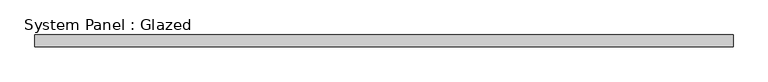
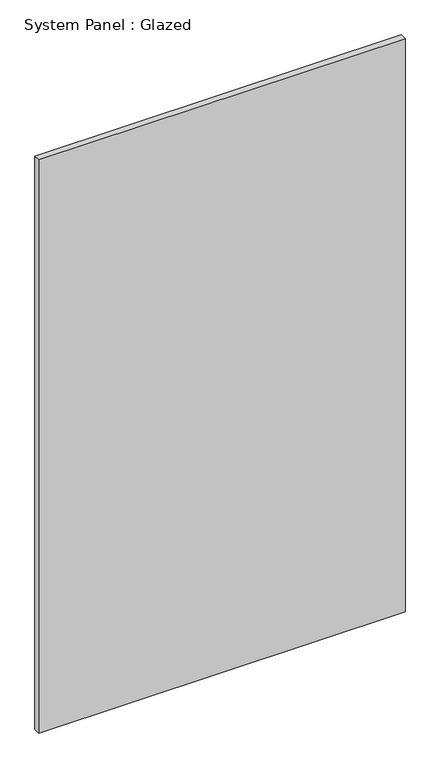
"""IFC4 building model written with IfcOpenShell, lengths in millimetres: plate geometry, System Panel : Glazed."""

import ifcopenshell
import ifcopenshell.guid

model = None  # the IFC model being written
_history = None  # IfcOwnerHistory: only IFC2X3 demands one
_inside = {}  # id of a spatial element -> (the spatial element, [elements in it])
_under = {}  # id of a project, library or spatial element -> (it, [spatial elements below it])
_declared = {}  # id of a project -> (the project, [libraries it declares])
_typed = {}  # id of a type object -> (the type object, [elements of that type])
_made_of = {}  # id of a material, layer set ... -> (it, [elements and type objects made of it])


def new_model(schema):
    """Start an empty IFC model of exactly this schema.

    Asked for "IFC4X3", IfcOpenShell would pick the latest addendum, in which some entities
    have other attributes; the version numbers below select the first issue.
    IFC2X3 requires an IfcOwnerHistory on every rooted entity: one is made here for all.
    """
    global model, _history
    if schema == "IFC4X3":
        model = ifcopenshell.file(schema_version=(4, 3, 0, 0))
    else:
        model = ifcopenshell.file(schema=schema)
    _inside.clear()
    _under.clear()
    _declared.clear()
    _typed.clear()
    _made_of.clear()
    _history = None
    if model.schema == "IFC2X3":
        org = make("IfcOrganization", Name="unknown")
        user = make(
            "IfcPersonAndOrganization",
            ThePerson=make("IfcPerson", FamilyName="unknown"),
            TheOrganization=org,
        )
        app = make(
            "IfcApplication",
            ApplicationDeveloper=org,
            Version="unknown",
            ApplicationFullName="unknown",
            ApplicationIdentifier="unknown",
        )
        _history = make(
            "IfcOwnerHistory",
            OwningUser=user,
            OwningApplication=app,
            ChangeAction="ADDED",
            CreationDate=0,
        )
    return model


def make(cls, **values):
    """One entity of the class cls with the attributes given. An attribute that is None is left unset."""
    return model.create_entity(
        cls, **{name: value for name, value in values.items() if value is not None}
    )


def rooted(cls, **values):
    """An entity with a GlobalId (a new one), such as an element, a storey or a relation."""
    return make(cls, GlobalId=ifcopenshell.guid.new(), OwnerHistory=_history, **values)


def si_unit(unit_type, name, prefix=None):
    """IfcSIUnit, for example si_unit("LENGTHUNIT", "METRE", prefix="MILLI")."""
    return make("IfcSIUnit", UnitType=unit_type, Prefix=prefix, Name=name)


def assignment(units):
    """IfcUnitAssignment: the units of a project."""
    return None if units is None else make("IfcUnitAssignment", Units=units)


def point(xyz):
    """IfcCartesianPoint."""
    return None if xyz is None else make("IfcCartesianPoint", Coordinates=xyz)


def direction(xyz):
    """IfcDirection."""
    return None if xyz is None else make("IfcDirection", DirectionRatios=xyz)


def frame(location, z_axis=None, x_axis=None):
    """IfcAxis2Placement3D, a coordinate frame: its origin and axes. An axis left out is left unset."""
    return make(
        "IfcAxis2Placement3D",
        Location=point(location),
        Axis=direction(z_axis),
        RefDirection=direction(x_axis),
    )


def origin():
    """The frame at (0, 0, 0) with its axes left unset."""
    return frame((0.0, 0.0, 0.0))


def origin_with_axes():
    """The frame at (0, 0, 0) with the z axis (0, 0, 1) and the x axis (1, 0, 0) written out."""
    return frame((0.0, 0.0, 0.0), z_axis=(0.0, 0.0, 1.0), x_axis=(1.0, 0.0, 0.0))


def place(relative_to, where):
    """IfcLocalPlacement: puts the frame where relative to a parent placement (None: the world)."""
    return make(
        "IfcLocalPlacement", PlacementRelTo=relative_to, RelativePlacement=where
    )


def context(
    kind, dimensions, precision=None, world=None, true_north=None, identifier=None
):
    """IfcGeometricRepresentationContext, for example the 3D "Model" context."""
    return make(
        "IfcGeometricRepresentationContext",
        ContextIdentifier=identifier,
        ContextType=kind,
        CoordinateSpaceDimension=dimensions,
        Precision=precision,
        WorldCoordinateSystem=world,
        TrueNorth=true_north,
    )


def project(units=None, contexts=None):
    """IfcProject with its units and contexts."""
    return rooted(
        "IfcProject",
        Name="project",
        RepresentationContexts=contexts,
        UnitsInContext=assignment(units),
    )


def spatial(cls, under=None, at=None, **own):
    """A site, building, storey or space (cls), placed at a placement, below another one or the project."""
    s = rooted(cls, ObjectPlacement=at, **own)
    if under is not None:
        _under.setdefault(under.id(), (under, []))[1].append(s)
    return s


def polyline(points):
    """IfcPolyline through the points."""
    return make("IfcPolyline", Points=[point(p) for p in points])


def outline(outer, holes=None, kind="AREA"):
    """IfcArbitraryClosedProfileDef: a profile drawn as a closed curve; with holes, ...WithVoids."""
    if holes is None:
        return make("IfcArbitraryClosedProfileDef", ProfileType=kind, OuterCurve=outer)
    return make(
        "IfcArbitraryProfileDefWithVoids",
        ProfileType=kind,
        OuterCurve=outer,
        InnerCurves=holes,
    )


def extrude(swept, where, along, depth):
    """IfcExtrudedAreaSolid: the profile swept, set in the frame where, extruded along a direction by depth."""
    return make(
        "IfcExtrudedAreaSolid",
        SweptArea=swept,
        Position=where,
        ExtrudedDirection=direction(along),
        Depth=depth,
    )


def shape(context_of_items, identifier, shape_type, items):
    """IfcShapeRepresentation: the items that make up one representation, for example the "Body"."""
    return make(
        "IfcShapeRepresentation",
        ContextOfItems=context_of_items,
        RepresentationIdentifier=identifier,
        RepresentationType=shape_type,
        Items=items,
    )


def source(mapping_origin, context_of_items, identifier, shape_type, items):
    """IfcRepresentationMap: a shape defined once, which mapped items show again and again."""
    return make(
        "IfcRepresentationMap",
        MappingOrigin=mapping_origin,
        MappedRepresentation=shape(context_of_items, identifier, shape_type, items),
    )


def transform(
    local_origin,
    x_axis=None,
    y_axis=None,
    z_axis=None,
    scale=None,
    scale2=None,
    scale3=None,
    uniform=True,
):
    """IfcCartesianTransformationOperator3D, or its non-uniform kind. x_axis, y_axis, z_axis: its Axis1, 2, 3."""
    if uniform:
        return make(
            "IfcCartesianTransformationOperator3D",
            Axis1=direction(x_axis),
            Axis2=direction(y_axis),
            LocalOrigin=point(local_origin),
            Scale=scale,
            Axis3=direction(z_axis),
        )
    return make(
        "IfcCartesianTransformationOperator3DnonUniform",
        Axis1=direction(x_axis),
        Axis2=direction(y_axis),
        LocalOrigin=point(local_origin),
        Scale=scale,
        Axis3=direction(z_axis),
        Scale2=scale2,
        Scale3=scale3,
    )


def mapped(mapping_source, mapping_target):
    """IfcMappedItem: shows the shape of a source again, moved by a transform."""
    return make(
        "IfcMappedItem", MappingSource=mapping_source, MappingTarget=mapping_target
    )


def made_of(thing, what):
    """Note that an element or type object is made of a material, layer set ...; save() writes the relation."""
    if what is not None:
        _made_of.setdefault(what.id(), (what, []))[1].append(thing)
    return thing


def element(
    cls,
    number,
    at=None,
    inside=None,
    cuts=None,
    type_object=None,
    material=None,
    context=None,
    identifier="Body",
    shape_type=None,
    held_by="IfcProductDefinitionShape",
    body=None,
    shapes=None,
    **own,
):
    """One element of the class cls, such as IfcWall. Its Tag is "e" and its number.

    at: its placement. inside: the storey or other place that contains it. cuts: it is an
    opening in that element (IfcRelVoidsElement). A single representation is given by context,
    identifier, shape_type and body (its items); several are given by shapes. held_by: the class
    of the entity that holds the representations. save() writes the other relations.
    """
    e = rooted(cls, Tag="e%d" % number, ObjectPlacement=at, **own)
    if body is not None:
        shapes = [shape(context, identifier, shape_type, body)]
    if shapes is not None:
        e.Representation = make(held_by, Representations=shapes)
    if inside is not None:
        _inside.setdefault(inside.id(), (inside, []))[1].append(e)
    if cuts is not None:
        rooted(
            "IfcRelVoidsElement", RelatingBuildingElement=cuts, RelatedOpeningElement=e
        )
    if type_object is not None:
        _typed.setdefault(type_object.id(), (type_object, []))[1].append(e)
    return made_of(e, material)


def aggregate(whole, parts):
    """IfcRelAggregates: a whole, such as a stair, and the parts it consists of."""
    return rooted("IfcRelAggregates", RelatingObject=whole, RelatedObjects=parts)


def save(model, path):
    """Write the relations noted so far, then the file.

    IfcRelAggregates (storeys below a building ...), IfcRelContainedInSpatialStructure (elements
    in a storey), IfcRelDefinesByType, IfcRelAssociatesMaterial and IfcRelDeclares: one each for
    every whole, place, type object, material and project.
    """
    for whole, parts in _under.values():
        aggregate(whole, parts)
    for where, things in _inside.values():
        rooted(
            "IfcRelContainedInSpatialStructure",
            RelatedElements=things,
            RelatingStructure=where,
        )
    for kind, things in _typed.values():
        rooted("IfcRelDefinesByType", RelatedObjects=things, RelatingType=kind)
    for what, things in _made_of.values():
        rooted("IfcRelAssociatesMaterial", RelatedObjects=things, RelatingMaterial=what)
    for by, libraries in _declared.values():
        rooted("IfcRelDeclares", RelatingContext=by, RelatedDefinitions=libraries)
    model.write(path)


def system_panel_glazed_b6d08e3c(model_context):
    return source(origin(), model_context, "Body", "SweptSolid", [
        extrude(outline(polyline([(742.4954406, 19.05), (-742.4954406, 19.05), (-742.4954406, 44.45), (742.4954406, 44.45), (742.4954406, 19.05)])), origin_with_axes(), (0.0, 0.0, 1.0), 2455.3333333),
    ])


if __name__ == "__main__":
    model = new_model("IFC4")
    model_context = context("Model", 3, world=origin())
    ifc_project = project(units=[si_unit("LENGTHUNIT", "METRE", prefix="MILLI")], contexts=[model_context])
    site = spatial("IfcSite", under=ifc_project)
    building = spatial("IfcBuilding", under=site)
    placement = place(None, origin())
    system_panel_glazed_shape = system_panel_glazed_b6d08e3c(model_context)
    element("IfcPlate", 1, ObjectType="System Panel : Glazed", at=placement, inside=building, context=model_context, shape_type="MappedRepresentation", body=[
        mapped(system_panel_glazed_shape, transform((0.0, 0.0, 0.0), x_axis=(1.0, 0.0, 0.0), y_axis=(0.0, 1.0, 0.0), z_axis=(0.0, 0.0, 1.0))),
    ])
    save(model, "model.ifc")
